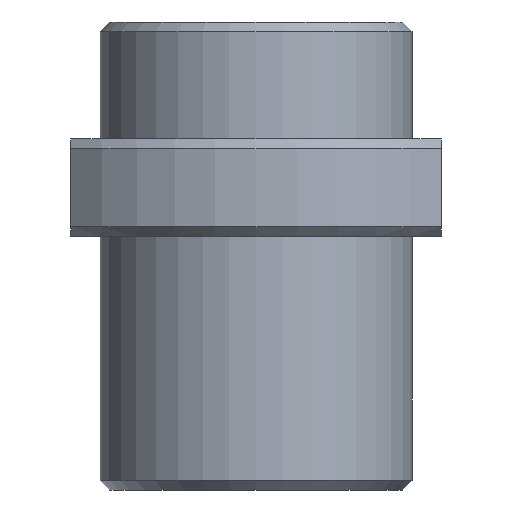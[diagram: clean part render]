
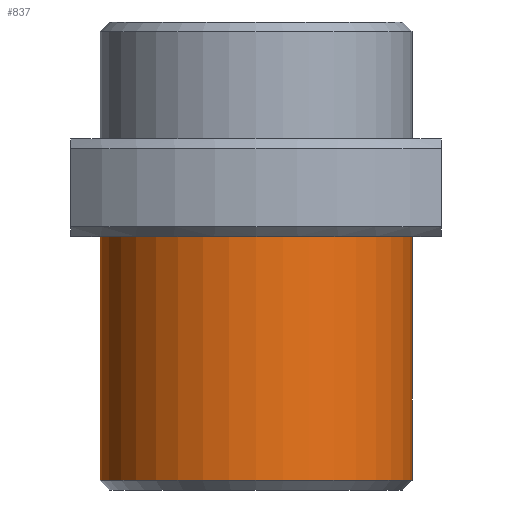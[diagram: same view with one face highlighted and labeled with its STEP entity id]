
A CAD part, front view. The second image highlights one B-rep face of the part: STEP entity #837.
In plain terms, the highlighted cylindrical face has radius 16 mm (diameter 32 mm), a partial arc.
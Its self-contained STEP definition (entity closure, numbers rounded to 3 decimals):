
#46=CARTESIAN_POINT('',(0.,0.,0.));
#47=DIRECTION('',(0.,0.,-1.));
#48=DIRECTION('',(1.,0.,0.));
#49=AXIS2_PLACEMENT_3D('',#46,#47,#48);
#243=DIRECTION('',(0.,0.,-1.));
#244=VECTOR('',#243,25.);
#245=CARTESIAN_POINT('',(-16.,0.,0.));
#246=LINE('',#245,#244);
#247=CARTESIAN_POINT('',(0.,0.,-25.));
#248=DIRECTION('',(0.,0.,-1.));
#249=DIRECTION('',(1.,0.,0.));
#250=AXIS2_PLACEMENT_3D('',#247,#248,#249);
#252=DIRECTION('',(0.,0.,-1.));
#253=VECTOR('',#252,25.);
#254=CARTESIAN_POINT('',(16.,0.,0.));
#255=LINE('',#254,#253);
#439=CARTESIAN_POINT('',(-16.,0.,0.));
#440=CARTESIAN_POINT('',(16.,0.,0.));
#441=VERTEX_POINT('',#439);
#442=VERTEX_POINT('',#440);
#467=CARTESIAN_POINT('',(16.,0.,-25.));
#468=CARTESIAN_POINT('',(-16.,0.,-25.));
#469=VERTEX_POINT('',#467);
#470=VERTEX_POINT('',#468);
#826=CARTESIAN_POINT('',(0.,0.,0.));
#827=DIRECTION('',(0.,0.,-1.));
#828=DIRECTION('',(-1.,0.,0.));
#829=AXIS2_PLACEMENT_3D('',#826,#827,#828);
#830=CYLINDRICAL_SURFACE('',#829,16.);
#831=ORIENTED_EDGE('',*,*,#792,.T.);
#832=ORIENTED_EDGE('',*,*,#821,.F.);
#833=ORIENTED_EDGE('',*,*,#532,.F.);
#834=ORIENTED_EDGE('',*,*,#818,.T.);
#835=EDGE_LOOP('',(#831,#832,#833,#834));
#836=FACE_OUTER_BOUND('',#835,.F.);
#837=ADVANCED_FACE('',(#836),#830,.T.);
#50=CIRCLE('',#49,16.);
#251=CIRCLE('',#250,16.);
#532=EDGE_CURVE('',#442,#441,#50,.T.);
#792=EDGE_CURVE('',#469,#470,#251,.T.);
#818=EDGE_CURVE('',#442,#469,#255,.T.);
#821=EDGE_CURVE('',#441,#470,#246,.T.);
